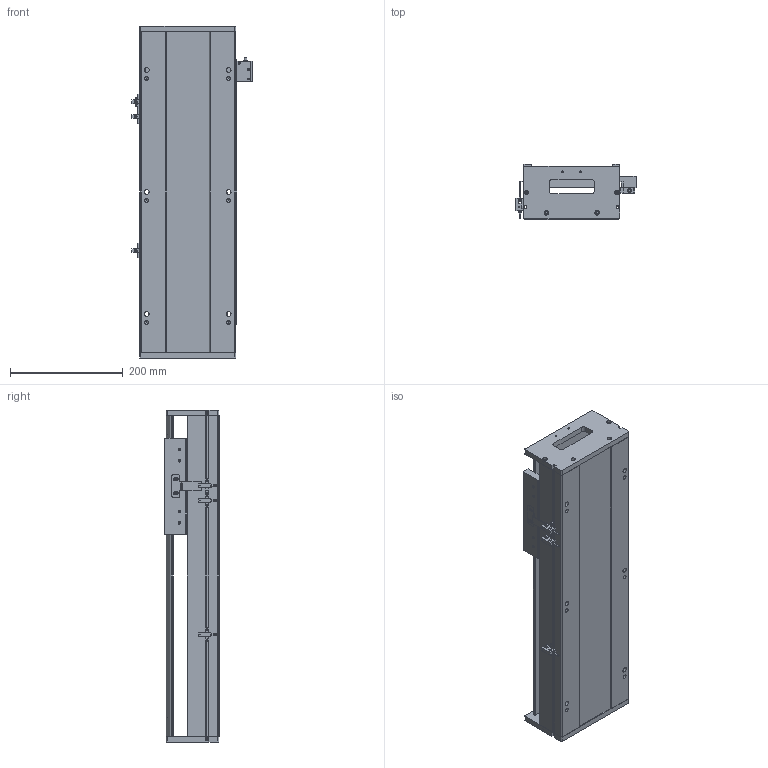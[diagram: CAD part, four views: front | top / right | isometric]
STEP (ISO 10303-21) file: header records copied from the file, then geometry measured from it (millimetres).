
FILE_DESCRIPTION (( 'STEP AP203' ), '1' );
FILE_NAME ('SKR17S-C1-S318（简）.STEP', '2022-09-29T02:32:43', ( '' ), ( '' ), 'SwSTEP 2.0', 'SolidWorks 2018', '' );
FILE_SCHEMA (( 'CONFIG_CONTROL_DESIGN' ));
Length unit declared in the file: millimetre
Products named in the file (8): 棠掑假蚾輸; SIKO棠掑; EE-SX672; SKR17菁釱-C1-S318(潠); 感应片（SKR12S-14S-17S）; SKR17滑台-170L（简）; SKR17耜啣; SKR17S-C1-S318（简）
Assembly tree (10 placements, depth 2):
  SKR17S-C1-S318（简）
    SKR17菁釱-C1-S318(潠)
    SKR17滑台-170L（简）
    SIKO棠掑
    EE-SX672  x3
    SKR17耜啣  x2
    棠掑假蚾輸
    感应片（SKR12S-14S-17S）
Bounding box: 212.7 x 97 x 588 mm (x, y, z)
Volume: 5011767.6 mm3; surface area: 686030.1 mm2
Topology: 11 solids, 11 shells, 945 faces, 2589 edges, 1668 vertices
Faces by surface type: plane 425, cylinder 416, cone 104
Entity records: 27270 total; most frequent: CARTESIAN_POINT 6473, ORIENTED_EDGE 4230, DIRECTION 4108, EDGE_CURVE 2115, AXIS2_PLACEMENT_3D 1455, VERTEX_POINT 1372, VECTOR 1198, LINE 1198
